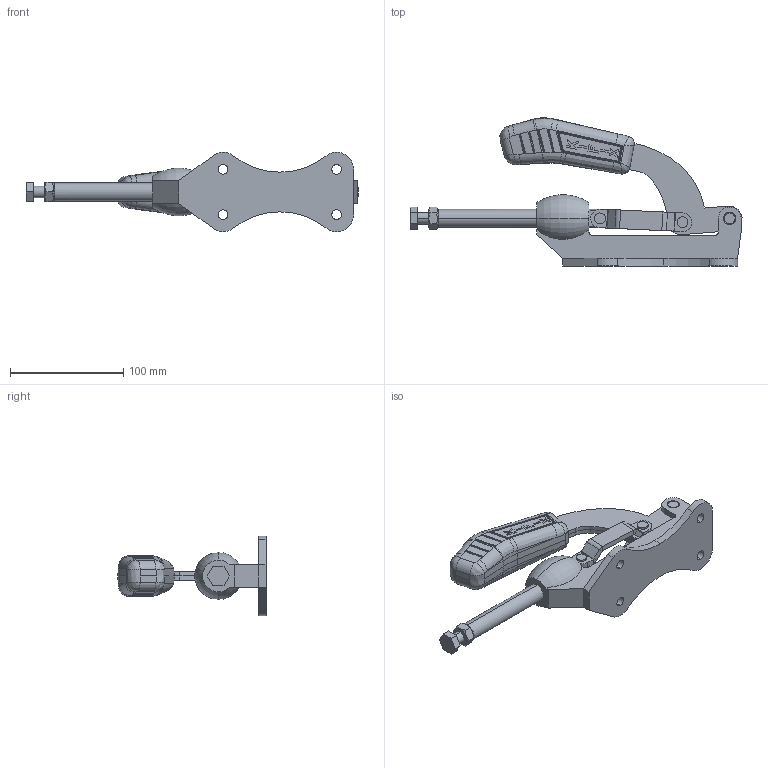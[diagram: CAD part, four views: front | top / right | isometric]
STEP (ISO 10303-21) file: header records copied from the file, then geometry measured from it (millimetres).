
FILE_DESCRIPTION (( 'STEP AP203' ), '1' );
FILE_NAME ('KF-053.STEP', '2014-08-25T18:07:28', ( 'Ricardo' ), ( '' ), 'SwSTEP 2.0', 'SolidWorks 2013', '' );
FILE_SCHEMA (( 'CONFIG_CONTROL_DESIGN' ));
Length unit declared in the file: millimetre
Products named in the file (10): 08.10036; 07.60003; 06.50026; 12.50021; 11.50003; PP-M10; 02.30011; KF-053; 01.10074; 03.20033
Assembly tree (13 placements, depth 3):
  KF-053
    02.30011
    01.10074  x2
    03.20033
    08.10036  x2
    07.60003
    06.50026  x3
    PP-M10
      12.50021
      11.50003
Bounding box: 292.62 x 130.62 x 70 mm (x, y, z)
Volume: 355968 mm3; surface area: 106061.1 mm2
Topology: 12 solids, 12 shells, 655 faces, 1636 edges, 1013 vertices
Faces by surface type: plane 233, cylinder 197, bspline 143, sphere 48, cone 28, torus 6
Entity records: 22019 total; most frequent: CARTESIAN_POINT 8543, ORIENTED_EDGE 2864, DIRECTION 2147, EDGE_CURVE 1432, VERTEX_POINT 899, AXIS2_PLACEMENT_3D 839, EDGE_LOOP 625, FACE_OUTER_BOUND 573
